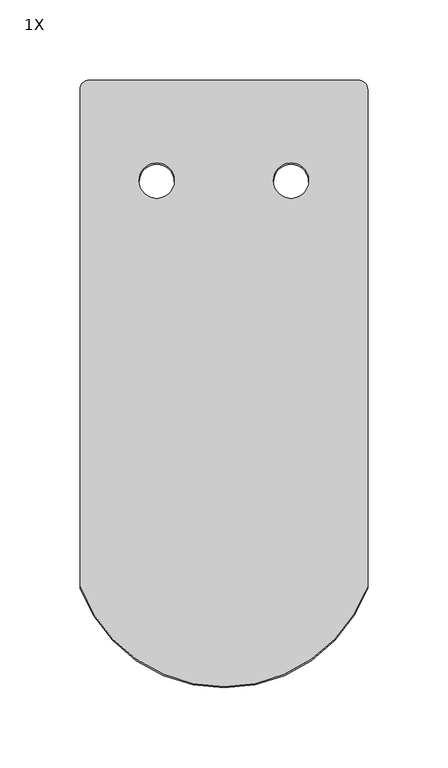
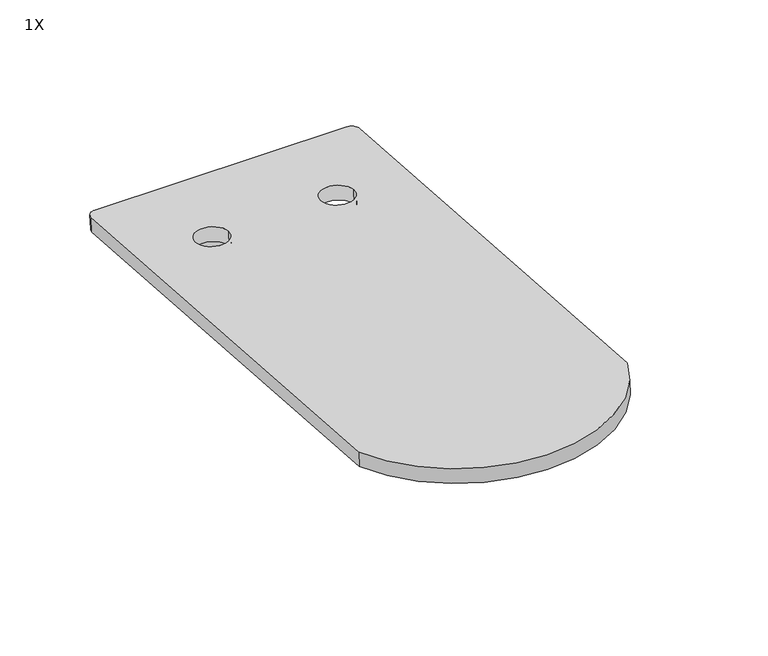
"""IFC4 building model written with IfcOpenShell, lengths in millimetres: proxy geometry, ML PhotonRoof Beaver Brick Premium : 1X."""

from ifc_helpers import new_model, si_unit, point, frame, frame_2d, origin, place, context, project, spatial, polyline, circle_curve, trimmed, segment, composite_curve, outline, extrude, source, transform, mapped, element, save


def proxy_1x_8219172e(model_context):
    return source(origin(), model_context, "Body", "SweptSolid", [
        extrude(outline(composite_curve([segment(trimmed(circle_curve(frame_2d((311.4065862, -6.0)), 6.0), [point((311.4065862, 0.0))], [point((317.4065861, -6.0))], False, "CARTESIAN"), True, "CONTINUOUS"), segment(polyline([(317.4065861, -6.0), (317.4065861, -174.0)]), True, "CONTINUOUS"), segment(trimmed(circle_curve(frame_2d((311.4065862, -174.0)), 6.0), [point((317.4065861, -174.0))], [point((311.4065862, -180.0))], False, "CARTESIAN"), True, "CONTINUOUS"), segment(polyline([(311.4065862, -180.0), (0.0, -180.0)]), True, "CONTINUOUS"), segment(trimmed(circle_curve(frame_2d((33.4065862, -90.0)), 96.0), [point((0.0, -180.0))], [point((0.0, 0.0))], False, "CARTESIAN"), True, "CONTINUOUS"), segment(polyline([(0.0, 0.0), (311.4065862, 0.0)]), True, "CONTINUOUS")], self_intersect=False), holes=[composite_curve([segment(trimmed(circle_curve(frame_2d((254.4065861, -48.0)), 11.0), [point((254.4065861, -37.0))], [point((254.4065861, -59.0))], True, "CARTESIAN"), True, "CONTINUOUS"), segment(trimmed(circle_curve(frame_2d((254.4065861, -48.0)), 11.0), [point((254.4065861, -59.0))], [point((254.4065861, -37.0))], True, "CARTESIAN"), True, "CONTINUOUS")], self_intersect=False), composite_curve([segment(trimmed(circle_curve(frame_2d((254.4065861, -132.0)), 11.0), [point((254.4065861, -143.0))], [point((254.4065861, -121.0))], True, "CARTESIAN"), True, "CONTINUOUS"), segment(trimmed(circle_curve(frame_2d((254.4065861, -132.0)), 11.0), [point((254.4065861, -121.0))], [point((254.4065861, -143.0))], True, "CARTESIAN"), True, "CONTINUOUS")], self_intersect=False)]), frame((-90.0, -254.7876088, 18.0817013), z_axis=(0.0, 0.0707897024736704, 0.997491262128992), x_axis=(0.0, 0.997491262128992, -0.0707897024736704)), (0.0, 0.0, 1.0), 10.0),
        extrude(outline(polyline([(65.625, 0.0), (65.625, -23.75), (-13.759513, -23.75), (-13.759513, 0.0), (65.625, 0.0)])), frame((-25.9327435, 44.8719219, -17.0261079), z_axis=(0.0, 0.0707897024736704, 0.997491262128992), x_axis=(1.0, 0.0, 0.0)), (0.0, 0.0, 1.0), 13.8069239),
    ])


if __name__ == "__main__":
    model = new_model("IFC4")
    model_context = context("Model", 3, world=origin())
    ifc_project = project(units=[si_unit("LENGTHUNIT", "METRE", prefix="MILLI")], contexts=[model_context])
    site = spatial("IfcSite", under=ifc_project)
    building = spatial("IfcBuilding", under=site)
    placement = place(None, origin())
    proxy_1x_shape = proxy_1x_8219172e(model_context)
    element("IfcBuildingElementProxy", 1, Name="ML PhotonRoof Beaver Brick Premium : 1X", ObjectType="ML PhotonRoof Beaver Brick Premium : 1X", at=placement, inside=building, context=model_context, shape_type="MappedRepresentation", body=[
        mapped(proxy_1x_shape, transform((0.0, 0.0, 0.0), x_axis=(1.0, 0.0, 0.0), y_axis=(0.0, 1.0, 0.0), z_axis=(0.0, 0.0, 1.0))),
    ])
    save(model, "model.ifc")
